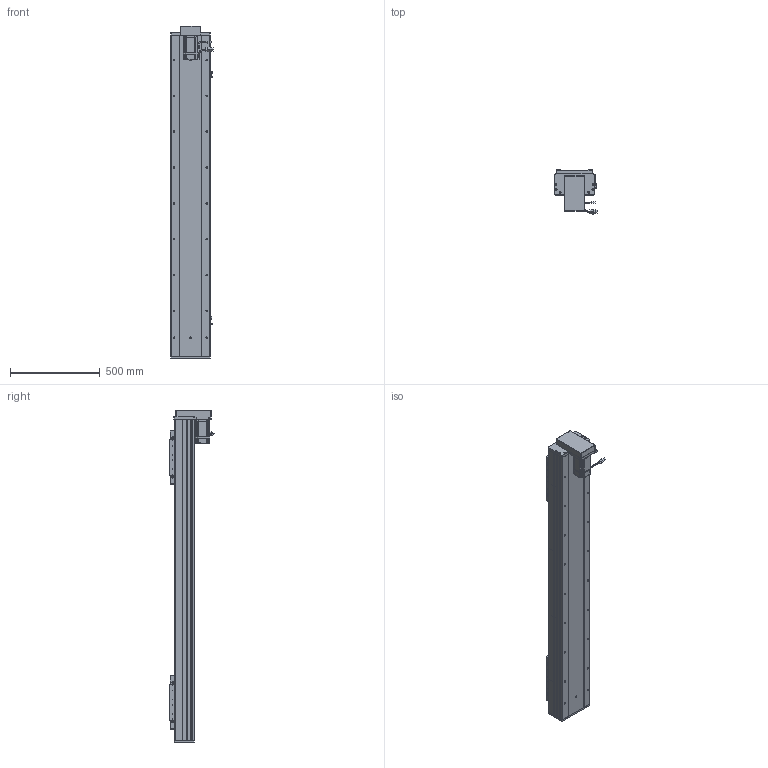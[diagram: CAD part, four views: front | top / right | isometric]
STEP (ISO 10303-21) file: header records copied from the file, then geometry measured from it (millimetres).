
FILE_DESCRIPTION (( 'STEP AP203' ), '1' );
FILE_NAME ('RY220F-L2525-800-BK-邧嶺.SLDASM_1350.step', '2022-08-06T08:08:05', ( '' ), ( '' ), 'SwSTEP 2.0', 'SolidWorks 2016', '' );
FILE_SCHEMA (( 'CONFIG_CONTROL_DESIGN' ));
Length unit declared in the file: millimetre
Products named in the file (15): RY220F蛌殏菁釱-800-邧嶺_1350; RY220狟殏萇儂欶; RY220F-L2525-800-BK-邧嶺.SLDASM_1350; RY220F-滅鳥奻裔; RY220F-祥凄詩湍-蛌殏-800_1350; RY220F-672覜茼んえ; 怢湛750W_ECMA-CX0807ES; 覜茼ん672; RY220狟殏萇儂假蚾啣; RY220F-蛌殏奻裔啣-800_1350; RY220F-詩湍揤踡輸; 侐源滅袉蝶; RY220F臏賑釱25-32佪裝; 滅袉蝶18-24; RY220F綴裔啣
Assembly tree (24 placements, depth 2):
  RY220F-L2525-800-BK-邧嶺.SLDASM_1350
    RY220F蛌殏菁釱-800-邧嶺_1350
    RY220F-蛌殏奻裔啣-800_1350  x2
    怢湛750W_ECMA-CX0807ES
    RY220F臏賑釱25-32佪裝  x2
    RY220F-滅鳥奻裔  x2
    滅袉蝶18-24  x3
    RY220F綴裔啣
    RY220F-祥凄詩湍-蛌殏-800_1350
    RY220F-詩湍揤踡輸  x2
    覜茼ん672  x3
    RY220F-672覜茼んえ  x2
    侐源滅袉蝶  x2
    RY220狟殏萇儂假蚾啣
    RY220狟殏萇儂欶
Bounding box: 237.27 x 247.24 x 1853 mm (x, y, z)
Volume: 16907250.8 mm3; surface area: 4410746.1 mm2
Topology: 25 solids, 25 shells, 2827 faces, 7674 edges, 4733 vertices
Faces by surface type: cylinder 1262, plane 1062, cone 432, bspline 45, sphere 16, torus 10
Entity records: 70205 total; most frequent: CARTESIAN_POINT 18911, ORIENTED_EDGE 10354, DIRECTION 10101, EDGE_CURVE 5177, AXIS2_PLACEMENT_3D 3590, VERTEX_POINT 3349, LINE 2921, VECTOR 2921
